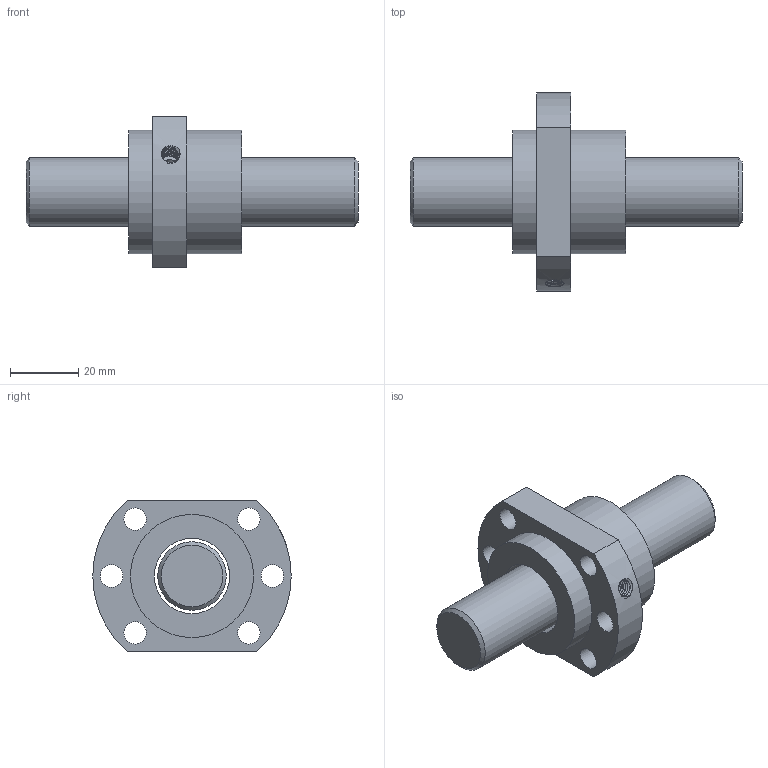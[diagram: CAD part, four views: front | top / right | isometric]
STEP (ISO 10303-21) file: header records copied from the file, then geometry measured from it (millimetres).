
FILE_DESCRIPTION(/* description */ ('Unknown','CAx-IF Rec.Pracs.---Representation and Presentation of Product Manufacturing Information (PMI)---4.0---2014-10-13','CAx-IF Rec.Pracs.---3D Tessellated Geometry---0.4---2014-09-14','2;1'),/* implementation_level */ '2;1');
FILE_NAME(/* name */ 'SFA2005-3.8',/* time_stamp */ '2020-12-08T08:19:59+08:00',/* author */ ('Unknown'),/* organization */ ('Unknown'),/* preprocessor_version */ 'ST-DEVELOPER v16.7',/* originating_system */ 'Solid Edge',/* authorisation */ 'Unknown');
FILE_SCHEMA (('AP242_MANAGED_MODEL_BASED_3D_ENGINEERING_MIM_LF { 1 0 10303 442 1 1 4 }'));
Length unit declared in the file: millimetre
Products named in the file (1): SFA2005-3.8
Bounding box: 97 x 58 x 44 mm (x, y, z)
Volume: 61762.2 mm3; surface area: 18221.6 mm2
Topology: 2 solids, 2 shells, 28 faces, 65 edges, 44 vertices
Faces by surface type: cylinder 15, plane 9, bspline 2, cone 2
Full cylindrical faces by diameter (mm): 3.2 x1, 6.6 x6, 20 x1, 22 x1, 36 x2
Entity records: 3124 total; most frequent: CARTESIAN_POINT 2453, DIRECTION 126, ORIENTED_EDGE 96, EDGE_LOOP 60, FACE_BOUND 60, AXIS2_PLACEMENT_3D 60, EDGE_CURVE 48, VERTEX_POINT 40
